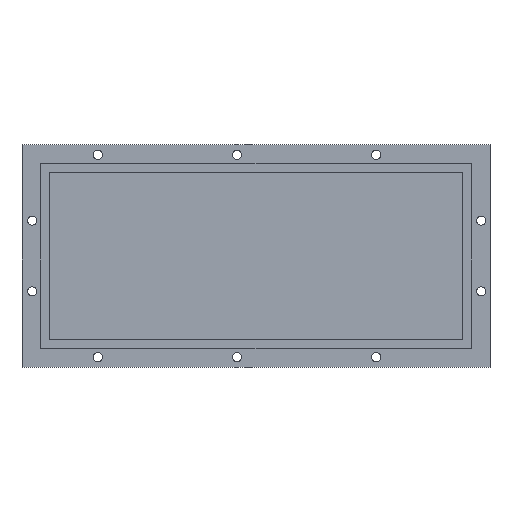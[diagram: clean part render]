
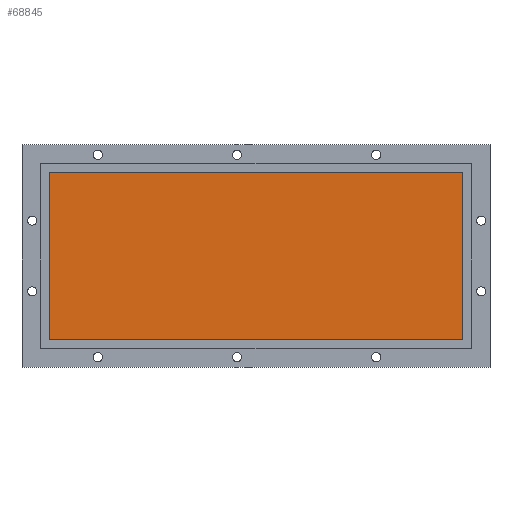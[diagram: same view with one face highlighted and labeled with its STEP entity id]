
A CAD part, top view. The second image highlights one B-rep face of the part: STEP entity #68845.
In plain terms, the highlighted planar face has unit normal (0, 0, 1).
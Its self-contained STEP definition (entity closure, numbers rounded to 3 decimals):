
#68754 = VERTEX_POINT('',#68755);
#68755 = CARTESIAN_POINT('',(10.8,77.2,5.));
#68761 = EDGE_CURVE('',#68754,#68762,#68764,.T.);
#68762 = VERTEX_POINT('',#68763);
#68763 = CARTESIAN_POINT('',(174.2,77.2,5.));
#68764 = LINE('',#68765,#68766);
#68765 = CARTESIAN_POINT('',(5.4,77.2,5.));
#68766 = VECTOR('',#68767,1.);
#68767 = DIRECTION('',(1.,0.,0.));
#68785 = EDGE_CURVE('',#68762,#68786,#68788,.T.);
#68786 = VERTEX_POINT('',#68787);
#68787 = CARTESIAN_POINT('',(174.2,10.8,5.));
#68788 = LINE('',#68789,#68790);
#68789 = CARTESIAN_POINT('',(174.2,5.4,5.));
#68790 = VECTOR('',#68791,1.);
#68791 = DIRECTION('',(0.,-1.,0.));
#68809 = VERTEX_POINT('',#68810);
#68810 = CARTESIAN_POINT('',(10.8,10.8,5.));
#68816 = EDGE_CURVE('',#68809,#68786,#68817,.T.);
#68817 = LINE('',#68818,#68819);
#68818 = CARTESIAN_POINT('',(5.4,10.8,5.));
#68819 = VECTOR('',#68820,1.);
#68820 = DIRECTION('',(1.,0.,0.));
#68833 = EDGE_CURVE('',#68754,#68809,#68834,.T.);
#68834 = LINE('',#68835,#68836);
#68835 = CARTESIAN_POINT('',(10.8,5.4,5.));
#68836 = VECTOR('',#68837,1.);
#68837 = DIRECTION('',(0.,-1.,0.));
#68845 = ADVANCED_FACE('',(#68846),#68852,.F.);
#68846 = FACE_BOUND('',#68847,.F.);
#68847 = EDGE_LOOP('',(#68848,#68849,#68850,#68851));
#68848 = ORIENTED_EDGE('',*,*,#68833,.F.);
#68849 = ORIENTED_EDGE('',*,*,#68761,.T.);
#68850 = ORIENTED_EDGE('',*,*,#68785,.T.);
#68851 = ORIENTED_EDGE('',*,*,#68816,.F.);
#68852 = PLANE('',#68853);
#68853 = AXIS2_PLACEMENT_3D('',#68854,#68855,#68856);
#68854 = CARTESIAN_POINT('',(0.,0.,5.));
#68855 = DIRECTION('',(0.,0.,-1.));
#68856 = DIRECTION('',(0.,1.,0.));
